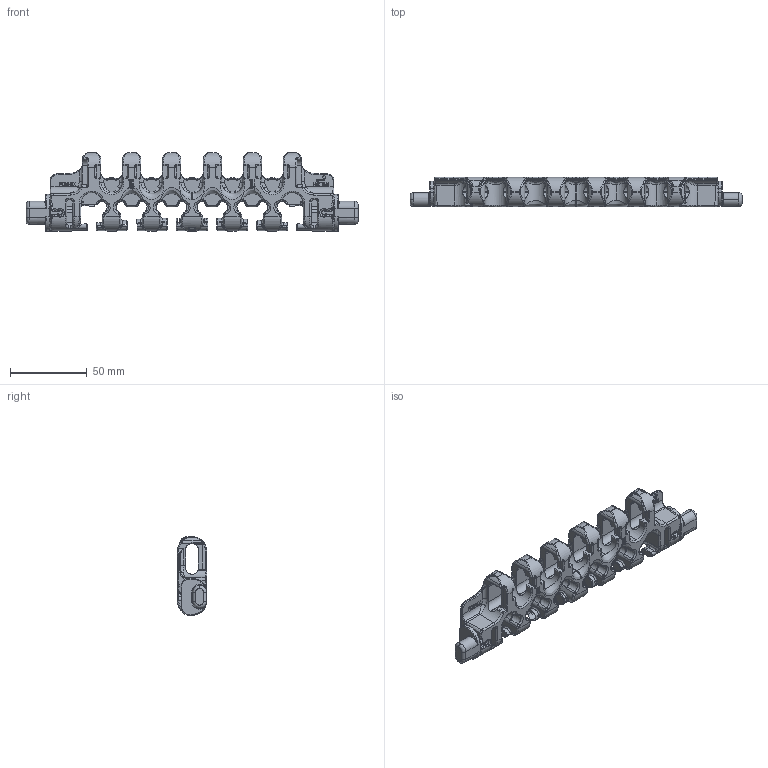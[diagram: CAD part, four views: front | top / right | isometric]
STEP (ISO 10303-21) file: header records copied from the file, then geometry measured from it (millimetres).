
FILE_DESCRIPTION (( 'STEP AP214' ), '1' );
FILE_NAME ('F2-750-TAPIS.STEP', '2011-04-14T11:32:20', ( '.' ), ( '' ), 'SwSTEP 2.0', 'SolidWorks 2010', '' );
FILE_SCHEMA (( 'AUTOMOTIVE_DESIGN' ));
Length unit declared in the file: millimetre
Products named in the file (1): F2-750-TAPIS
Bounding box: 215.9 x 19.05 x 51 mm (x, y, z)
Surface area: 30820.9 mm2 (no closed solid volume)
Topology: 0 solids, 3 shells, 1917 faces, 5748 edges, 3678 vertices
Faces by surface type: bspline 777, cylinder 738, plane 368, torus 34
Entity records: 111393 total; most frequent: CARTESIAN_POINT 68145, ORIENTED_EDGE 9935, DIRECTION 6542, EDGE_CURVE 5718, VERTEX_POINT 3678, AXIS2_PLACEMENT_3D 2326, B_SPLINE_CURVE_WITH_KNOTS 1996, EDGE_LOOP 1949
